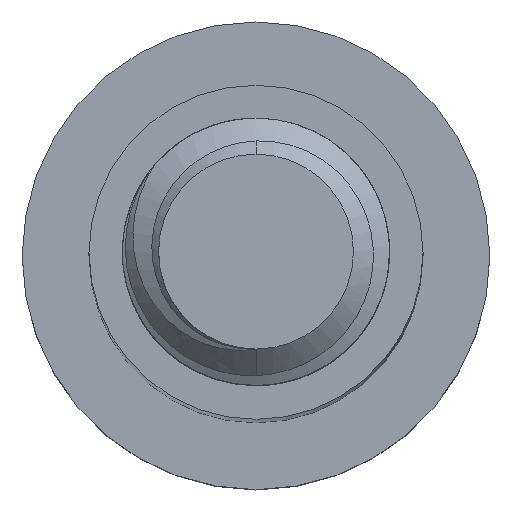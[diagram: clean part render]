
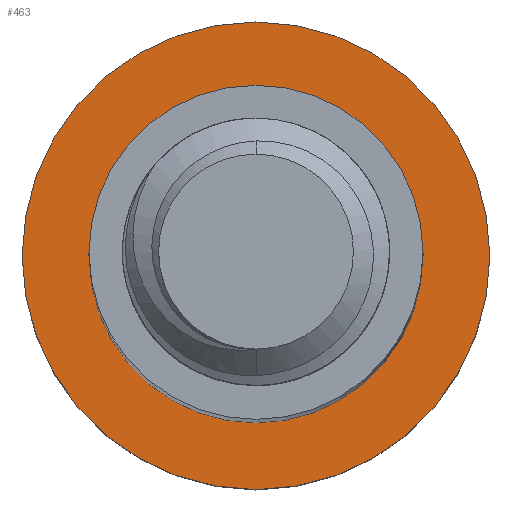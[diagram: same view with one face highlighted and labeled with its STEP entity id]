
A CAD part, top view. The second image highlights one B-rep face of the part: STEP entity #463.
In plain terms, the highlighted planar face has unit normal (0, 0, 1).
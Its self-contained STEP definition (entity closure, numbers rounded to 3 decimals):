
#38 = DIRECTION ( 'NONE',  ( 0., 0., -1. ) ) ;
#130 = CARTESIAN_POINT ( 'NONE',  ( -7., 0., -60. ) ) ;
#131 = DIRECTION ( 'NONE',  ( -1., 0., 0. ) ) ;
#359 = VERTEX_POINT ( 'NONE', #3456 ) ;
#421 = AXIS2_PLACEMENT_3D ( 'NONE', #589, #929, #3837 ) ;
#463 = ADVANCED_FACE ( 'NONE', ( #3155, #1269 ), #1526, .F. ) ;
#589 = CARTESIAN_POINT ( 'NONE',  ( 0., 0., -60. ) ) ;
#655 = EDGE_LOOP ( 'NONE', ( #3710, #3824 ) ) ;
#705 = CARTESIAN_POINT ( 'NONE',  ( 0., 0., -60. ) ) ;
#725 = DIRECTION ( 'NONE',  ( 0., 0., -1. ) ) ;
#744 = ORIENTED_EDGE ( 'NONE', *, *, #1743, .F. ) ;
#760 = VERTEX_POINT ( 'NONE', #130 ) ;
#929 = DIRECTION ( 'NONE',  ( 0., 0., -1. ) ) ;
#1269 = FACE_OUTER_BOUND ( 'NONE', #3390, .T. ) ;
#1277 = EDGE_CURVE ( 'NONE', #2588, #2371, #3287, .T. ) ;
#1306 = EDGE_CURVE ( 'NONE', #760, #359, #3908, .T. ) ;
#1367 = DIRECTION ( 'NONE',  ( -1., 0., 0. ) ) ;
#1526 = PLANE ( 'NONE',  #421 ) ;
#1687 = CARTESIAN_POINT ( 'NONE',  ( 0., 0., -60. ) ) ;
#1743 = EDGE_CURVE ( 'NONE', #359, #760, #3164, .T. ) ;
#1836 = ORIENTED_EDGE ( 'NONE', *, *, #1306, .F. ) ;
#1969 = DIRECTION ( 'NONE',  ( -1., 0., 0. ) ) ;
#2200 = CIRCLE ( 'NONE', #3095, 5. ) ;
#2332 = CARTESIAN_POINT ( 'NONE',  ( 0., 0., -60. ) ) ;
#2371 = VERTEX_POINT ( 'NONE', #3511 ) ;
#2393 = DIRECTION ( 'NONE',  ( 0., 0., -1. ) ) ;
#2471 = AXIS2_PLACEMENT_3D ( 'NONE', #2651, #725, #1969 ) ;
#2543 = AXIS2_PLACEMENT_3D ( 'NONE', #705, #38, #1367 ) ;
#2588 = VERTEX_POINT ( 'NONE', #4040 ) ;
#2614 = EDGE_CURVE ( 'NONE', #2371, #2588, #2200, .T. ) ;
#2651 = CARTESIAN_POINT ( 'NONE',  ( 0., 0., -60. ) ) ;
#2704 = DIRECTION ( 'NONE',  ( 0., 0., -1. ) ) ;
#2821 = AXIS2_PLACEMENT_3D ( 'NONE', #2332, #2704, #131 ) ;
#3095 = AXIS2_PLACEMENT_3D ( 'NONE', #1687, #2393, #3696 ) ;
#3155 = FACE_BOUND ( 'NONE', #655, .T. ) ;
#3164 = CIRCLE ( 'NONE', #2821, 7. ) ;
#3287 = CIRCLE ( 'NONE', #2543, 5. ) ;
#3390 = EDGE_LOOP ( 'NONE', ( #744, #1836 ) ) ;
#3456 = CARTESIAN_POINT ( 'NONE',  ( 7., 0., -60. ) ) ;
#3511 = CARTESIAN_POINT ( 'NONE',  ( 5., 0., -60. ) ) ;
#3696 = DIRECTION ( 'NONE',  ( -1., 0., 0. ) ) ;
#3710 = ORIENTED_EDGE ( 'NONE', *, *, #1277, .T. ) ;
#3824 = ORIENTED_EDGE ( 'NONE', *, *, #2614, .T. ) ;
#3837 = DIRECTION ( 'NONE',  ( -1., 0., 0. ) ) ;
#3908 = CIRCLE ( 'NONE', #2471, 7. ) ;
#4040 = CARTESIAN_POINT ( 'NONE',  ( -5., 0., -60. ) ) ;
